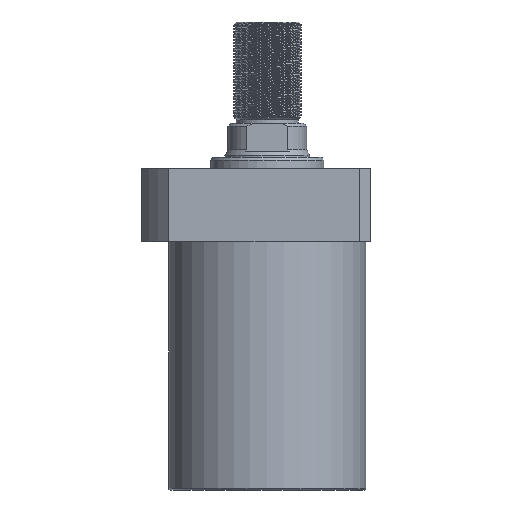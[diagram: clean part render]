
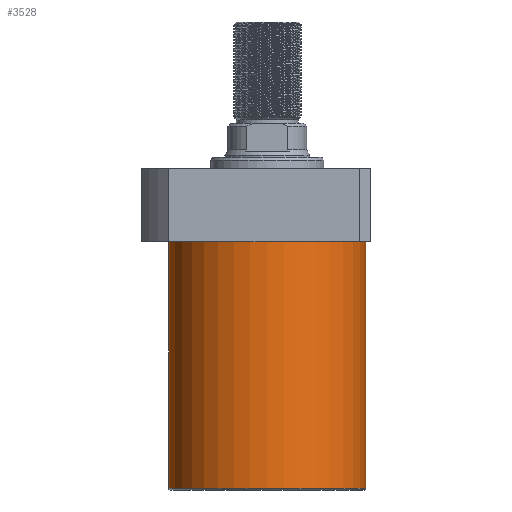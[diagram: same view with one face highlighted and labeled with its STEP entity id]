
A CAD part, front view. The second image highlights one B-rep face of the part: STEP entity #3528.
In plain terms, the highlighted cylindrical face has radius 52.5 mm (diameter 105 mm), a partial arc.
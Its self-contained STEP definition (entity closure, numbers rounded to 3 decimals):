
#69 = EDGE_CURVE ( 'NONE', #5476, #8112, #4159, .T. ) ;
#137 = DIRECTION ( 'NONE',  ( 0., 0., 1. ) ) ;
#266 = CARTESIAN_POINT ( 'NONE',  ( 0., 0., -150.5 ) ) ;
#577 = AXIS2_PLACEMENT_3D ( 'NONE', #4569, #4538, #4507 ) ;
#714 = CIRCLE ( 'NONE', #1606, 52.5 ) ;
#751 = AXIS2_PLACEMENT_3D ( 'NONE', #5351, #137, #5372 ) ;
#807 = EDGE_CURVE ( 'NONE', #1548, #8112, #6569, .T. ) ;
#934 = DIRECTION ( 'NONE',  ( -1., 0., 0. ) ) ;
#1226 = CARTESIAN_POINT ( 'NONE',  ( -52.5, 0., -150.5 ) ) ;
#1348 = ORIENTED_EDGE ( 'NONE', *, *, #807, .T. ) ;
#1548 = VERTEX_POINT ( 'NONE', #6446 ) ;
#1606 = AXIS2_PLACEMENT_3D ( 'NONE', #266, #4822, #934 ) ;
#1616 = CARTESIAN_POINT ( 'NONE',  ( -52.5, 0., -19.5 ) ) ;
#1848 = EDGE_LOOP ( 'NONE', ( #7817, #2348, #4296, #1348 ) ) ;
#2043 = LINE ( 'NONE', #6709, #3567 ) ;
#2182 = DIRECTION ( 'NONE',  ( 0., 0., 1. ) ) ;
#2348 = ORIENTED_EDGE ( 'NONE', *, *, #3592, .T. ) ;
#2367 = CYLINDRICAL_SURFACE ( 'NONE', #751, 52.5 ) ;
#2405 = VECTOR ( 'NONE', #7681, 1000. ) ;
#3528 = ADVANCED_FACE ( 'NONE', ( #6039 ), #2367, .T. ) ;
#3567 = VECTOR ( 'NONE', #2182, 1000. ) ;
#3592 = EDGE_CURVE ( 'NONE', #5476, #4617, #714, .T. ) ;
#4159 = LINE ( 'NONE', #7712, #2405 ) ;
#4296 = ORIENTED_EDGE ( 'NONE', *, *, #7576, .T. ) ;
#4507 = DIRECTION ( 'NONE',  ( 1., 0., 0. ) ) ;
#4538 = DIRECTION ( 'NONE',  ( 0., 0., -1. ) ) ;
#4569 = CARTESIAN_POINT ( 'NONE',  ( 0., 0., -19.5 ) ) ;
#4617 = VERTEX_POINT ( 'NONE', #6850 ) ;
#4822 = DIRECTION ( 'NONE',  ( 0., 0., 1. ) ) ;
#5351 = CARTESIAN_POINT ( 'NONE',  ( 0., 0., -151.5 ) ) ;
#5372 = DIRECTION ( 'NONE',  ( 1., 0., 0. ) ) ;
#5476 = VERTEX_POINT ( 'NONE', #1226 ) ;
#6039 = FACE_OUTER_BOUND ( 'NONE', #1848, .T. ) ;
#6446 = CARTESIAN_POINT ( 'NONE',  ( 52.5, 0., -19.5 ) ) ;
#6569 = CIRCLE ( 'NONE', #577, 52.5 ) ;
#6709 = CARTESIAN_POINT ( 'NONE',  ( 52.5, 0., -151.5 ) ) ;
#6850 = CARTESIAN_POINT ( 'NONE',  ( 52.5, 0., -150.5 ) ) ;
#7576 = EDGE_CURVE ( 'NONE', #4617, #1548, #2043, .T. ) ;
#7681 = DIRECTION ( 'NONE',  ( 0., 0., 1. ) ) ;
#7712 = CARTESIAN_POINT ( 'NONE',  ( -52.5, 0., -151.5 ) ) ;
#7817 = ORIENTED_EDGE ( 'NONE', *, *, #69, .F. ) ;
#8112 = VERTEX_POINT ( 'NONE', #1616 ) ;
